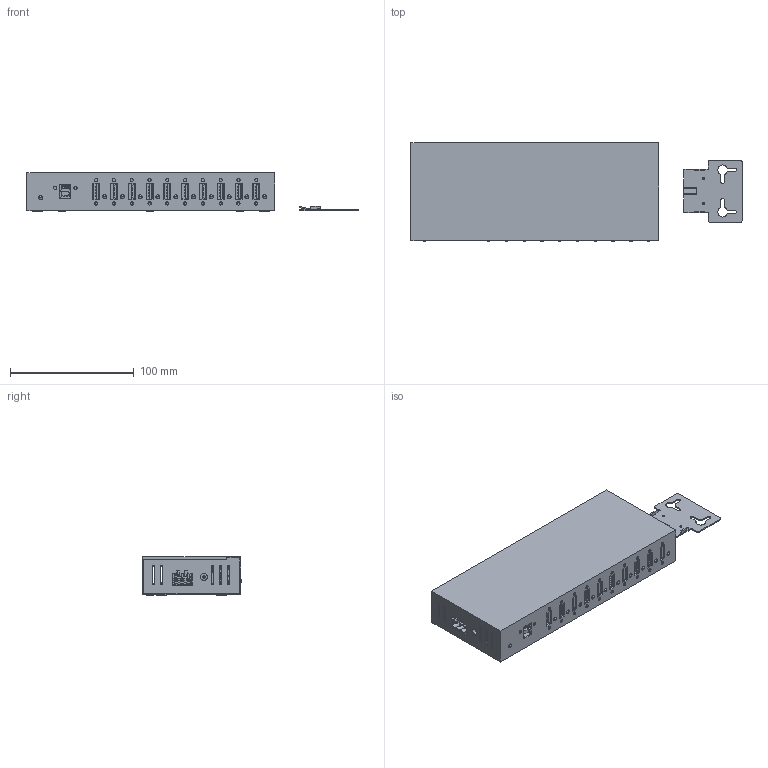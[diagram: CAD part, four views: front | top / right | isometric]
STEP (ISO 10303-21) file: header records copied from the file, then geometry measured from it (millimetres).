
FILE_DESCRIPTION(('FreeCAD Model'),'2;1');
FILE_NAME('Open CASCADE Shape Model','2022-09-05T10:08:49',(''),(''), 'Open CASCADE STEP processor 7.6','FreeCAD','Unknown');
FILE_SCHEMA(('AUTOMOTIVE_DESIGN { 1 0 10303 214 1 1 1 1 }'));
Length unit declared in the file: millimetre
Products named in the file (3): EX_11220HMVS_3D; EX-11220HMVS_3D; Wallmount_Kit_11217HMVS
Assembly tree (2 placements, depth 2):
  EX_11220HMVS_3D
    EX-11220HMVS_3D
    Wallmount_Kit_11217HMVS
Bounding box: 267.85 x 79.69 x 31.1 mm (x, y, z)
Volume: 1888.7 mm3; surface area: 140705.5 mm2
Topology: 1 solids, 2 shells, 6482 faces, 19347 edges, 12988 vertices
Faces by surface type: plane 5464, cylinder 836, cone 91, torus 58, sphere 33
Full cylindrical faces by diameter (mm): 0.4 x22, 0.7 x20, 1.5 x3, 1.567 x4, 2 x5, 2.6 x20, 2.65 x2, 2.75 x3, 2.8 x6, 3 x3, 3.2 x11, 3.4 x11, 3.6 x11, 4 x6, 5.5 x3, 5.8 x1, 6.5 x1, 8.1 x4
Entity records: 545449 total; most frequent: CARTESIAN_POINT 128297, DIRECTION 66886, LINE 46920, VECTOR 46920, ORIENTED_EDGE 38617, PCURVE 38617, DEFINITIONAL_REPRESENTATION 38617, EDGE_CURVE 19337
